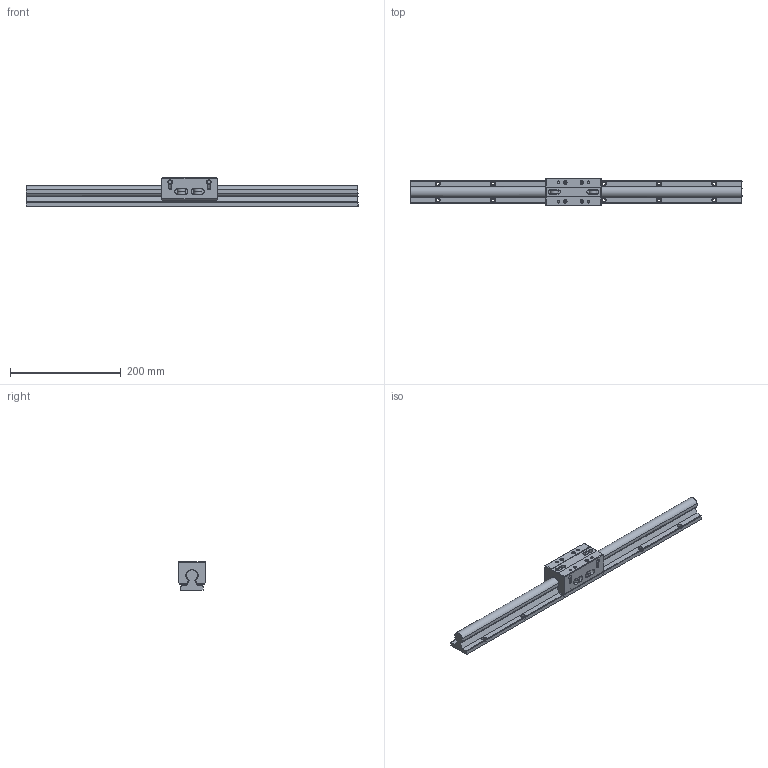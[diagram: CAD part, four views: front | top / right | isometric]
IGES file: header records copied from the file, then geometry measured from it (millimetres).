
Global section: file name: No Iges File Name specified; native system: AutoDesk Inventor R10; preprocessor: AutoDesk Inventor Iges Exporter R10; author: No Author specified; organization: No Organization specified; date: 20101222.155444; units: millimetre
Bounding box: 600 x 50 x 52 mm (x, y, z)
Surface area: 132641.5 mm2 (no closed solid volume)
Topology: 0 solids, 0 shells, 534 faces, 4060 edges, 4032 vertices
Faces by surface type: bspline 534
